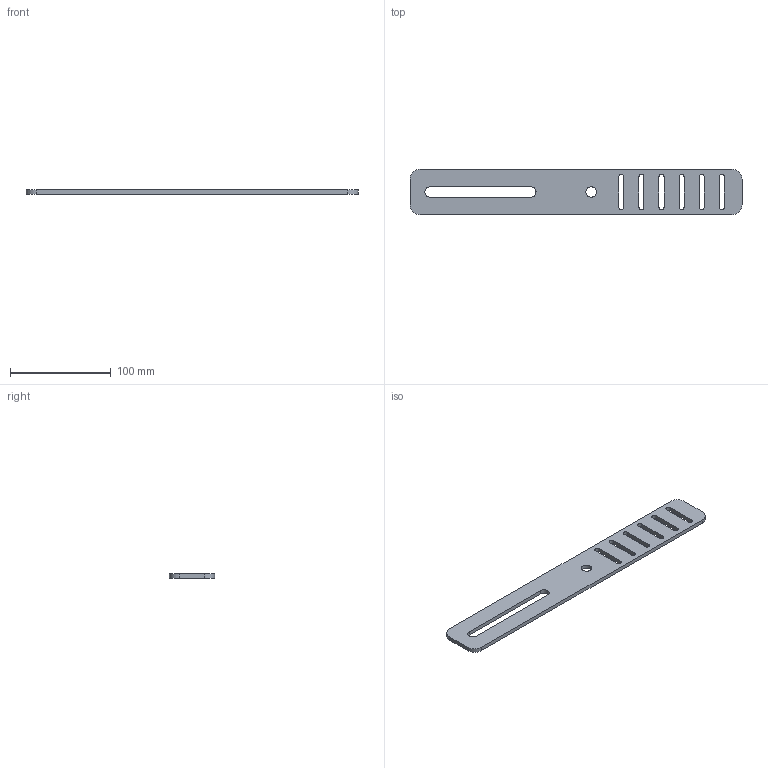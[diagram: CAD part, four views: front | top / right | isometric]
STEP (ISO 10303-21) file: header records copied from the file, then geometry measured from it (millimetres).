
FILE_DESCRIPTION (( 'STEP AP214' ), '1' );
FILE_NAME ('N510241_0-stp-Schienenbefestigung_Band_Basic.STEP', '2018-07-03T11:13:02', ( '' ), ( '' ), 'SwSTEP 2.0', 'SolidWorks 2017', '' );
FILE_SCHEMA (( 'AUTOMOTIVE_DESIGN' ));
Length unit declared in the file: millimetre
Products named in the file (1): N510241_0-stp-Schienenbefestigung_Band_Basic
Bounding box: 330 x 45 x 4 mm (x, y, z)
Volume: 50092.7 mm3; surface area: 30858.6 mm2
Topology: 1 solids, 1 shells, 41 faces, 117 edges, 78 vertices
Faces by surface type: cylinder 21, plane 20
Entity records: 1419 total; most frequent: DIRECTION 243, CARTESIAN_POINT 237, ORIENTED_EDGE 234, EDGE_CURVE 117, AXIS2_PLACEMENT_3D 84, VERTEX_POINT 78, VECTOR 75, LINE 75
